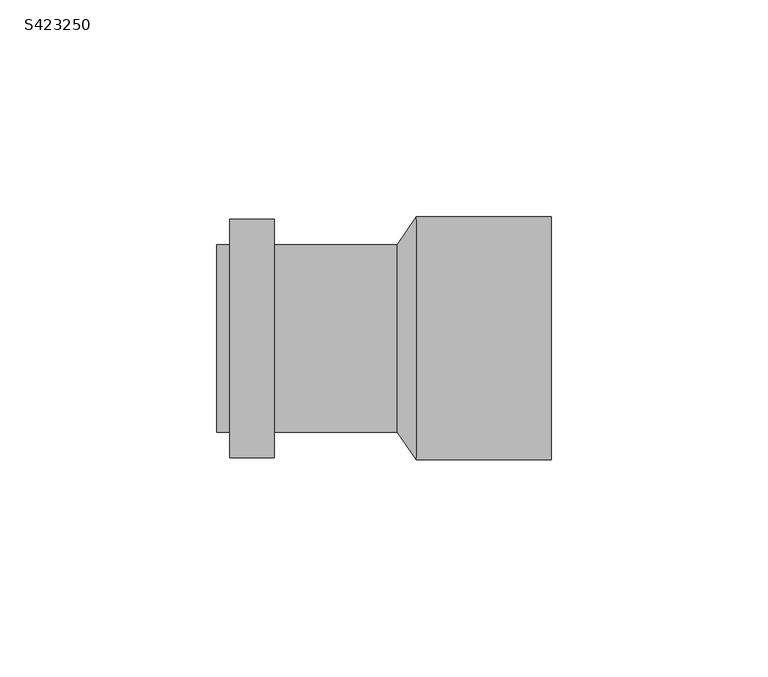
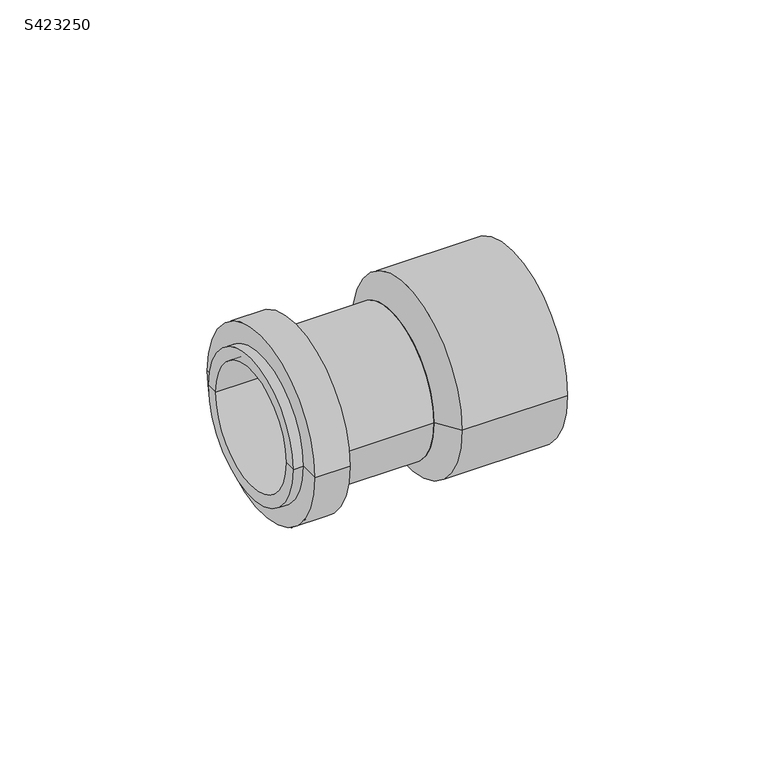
"""IFC4 building model written with IfcOpenShell, lengths in millimetres: pipe fitting geometry, PIF_HDPE PVCABS_ADAPTOR_MARLEY2 : S423250."""

from ifc_helpers import new_model, si_unit, frame, origin, place, context, project, spatial, polyline, circle_curve, source, transform, mapped, element, save
from ifc_brep_helpers import plane_surface, cylinder_surface, revolved_surface, advanced_brep


def s423250_e266388f(model_context):
    return source(origin(), model_context, "Body", "AdvancedBrep", [
        advanced_brep(
        [(3.0, -21.6, 0.0), (3.0, 21.6, 0.0), (7.4706438, 28.0, 0.0), (7.4706438, -28.0, 0.0), (3.0, 0.0, 0.0), (38.5, -28.0, 0.0), (38.5, 28.0, 0.0), (38.5, 0.0, 0.0)],
        [
            (0, 1, circle_curve(frame((3.0, 0.0, 0.0), z_axis=(1.0, 0.0, 0.0), x_axis=(0.0, 1.0, 0.0)), 21.6)),
            (1, 2),
            (2, 3, circle_curve(frame((7.4706438, 0.0, 0.0), z_axis=(-1.0, 0.0, 0.0), x_axis=(0.0, 1.0, 0.0)), 28.0)),
            (3, 0),
            (1, 0, circle_curve(frame((3.0, 0.0, 0.0), z_axis=(1.0, 0.0, 0.0), x_axis=(0.0, 1.0, 0.0)), 21.6)),
            (3, 2, circle_curve(frame((7.4706438, 0.0, 0.0), z_axis=(-1.0, 0.0, 0.0), x_axis=(0.0, 1.0, 0.0)), 28.0)),
            (4, 1),
            (0, 4),
            (5, 6, circle_curve(frame((38.5, 0.0, 0.0), z_axis=(1.0, 0.0, 0.0), x_axis=(0.0, 1.0, 0.0)), 28.0)),
            (6, 7),
            (7, 5),
            (6, 5, circle_curve(frame((38.5, 0.0, 0.0), z_axis=(1.0, 0.0, 0.0), x_axis=(0.0, 1.0, 0.0)), 28.0)),
            (2, 6),
            (5, 3),
        ],
        [
            revolved_surface(polyline([(7.4706438, 28.0, 0.0), (3.0, 21.6, 0.0)]), (47.6540294, 0.0, 0.0), (-1.0, 0.0, 0.0)),
            plane_surface(frame((3.0, 0.0, 0.0), z_axis=(-1.0, 0.0, 0.0), x_axis=(0.0, 1.0, 0.0))),
            plane_surface(frame((38.5, 0.0, 0.0), z_axis=(1.0, 0.0, 0.0), x_axis=(0.0, 1.0, 0.0))),
            cylinder_surface(frame((47.6540294, 0.0, 0.0), z_axis=(-1.0, 0.0, 0.0), x_axis=(0.0, 1.0, 0.0)), 28.0),
        ],
        [
            (0, [[1, 2, 3, 4]]),
            (0, [[5, -4, 6, -2]]),
            (1, [[7, -1, 8]]),
            (1, [[-8, -5, -7]]),
            (2, [[9, 10, 11]]),
            (2, [[12, -11, -10]]),
            (3, [[-3, 13, -9, 14]]),
            (3, [[-6, -14, -12, -13]]),
        ],
    ),
        advanced_brep(
        [(0.0, -18.0, 0.0), (0.0, 18.0, 0.0), (-38.5, 18.0, 0.0), (-38.5, -18.0, 0.0), (0.0, 0.0, 0.0), (3.0, -21.6, 0.0), (3.0, 21.6, 0.0), (3.0, 0.0, 0.0), (-25.2711836, -21.6, 0.0), (-25.2711836, 21.6, 0.0), (-25.2711836, -27.5, 0.0), (-25.2711836, 27.5, 0.0), (-35.5, -27.5, 0.0), (-35.5, 27.5, 0.0), (-35.5, -21.6, 0.0), (-35.5, 21.6, 0.0), (-38.5, -21.6, 0.0), (-38.5, 21.6, 0.0)],
        [
            (0, 1, circle_curve(frame((0.0, 0.0, 0.0), z_axis=(1.0, 0.0, 0.0), x_axis=(0.0, 1.0, 0.0)), 18.0)),
            (1, 2),
            (2, 3, circle_curve(frame((-38.5, 0.0, 0.0), z_axis=(-1.0, 0.0, 0.0), x_axis=(0.0, 1.0, 0.0)), 18.0)),
            (3, 0),
            (1, 0, circle_curve(frame((0.0, 0.0, 0.0), z_axis=(1.0, 0.0, 0.0), x_axis=(0.0, 1.0, 0.0)), 18.0)),
            (3, 2, circle_curve(frame((-38.5, 0.0, 0.0), z_axis=(-1.0, 0.0, 0.0), x_axis=(0.0, 1.0, 0.0)), 18.0)),
            (4, 1),
            (0, 4),
            (5, 6, circle_curve(frame((3.0, 0.0, 0.0), z_axis=(1.0, 0.0, 0.0), x_axis=(0.0, 1.0, 0.0)), 21.6)),
            (6, 7),
            (7, 5),
            (6, 5, circle_curve(frame((3.0, 0.0, 0.0), z_axis=(1.0, 0.0, 0.0), x_axis=(0.0, 1.0, 0.0)), 21.6)),
            (8, 9, circle_curve(frame((-25.2711836, 0.0, 0.0), z_axis=(1.0, 0.0, 0.0), x_axis=(0.0, 1.0, 0.0)), 21.6)),
            (9, 6),
            (5, 8),
            (9, 8, circle_curve(frame((-25.2711836, 0.0, 0.0), z_axis=(1.0, 0.0, 0.0), x_axis=(0.0, 1.0, 0.0)), 21.6)),
            (10, 11, circle_curve(frame((-25.2711836, 0.0, 0.0), z_axis=(1.0, 0.0, 0.0), x_axis=(0.0, 1.0, 0.0)), 27.5)),
            (11, 9),
            (8, 10),
            (11, 10, circle_curve(frame((-25.2711836, 0.0, 0.0), z_axis=(1.0, 0.0, 0.0), x_axis=(0.0, 1.0, 0.0)), 27.5)),
            (12, 13, circle_curve(frame((-35.5, 0.0, 0.0), z_axis=(1.0, 0.0, 0.0), x_axis=(0.0, 1.0, 0.0)), 27.5)),
            (13, 11),
            (10, 12),
            (13, 12, circle_curve(frame((-35.5, 0.0, 0.0), z_axis=(1.0, 0.0, 0.0), x_axis=(0.0, 1.0, 0.0)), 27.5)),
            (14, 15, circle_curve(frame((-35.5, 0.0, 0.0), z_axis=(1.0, 0.0, 0.0), x_axis=(0.0, 1.0, 0.0)), 21.6)),
            (15, 13),
            (12, 14),
            (15, 14, circle_curve(frame((-35.5, 0.0, 0.0), z_axis=(1.0, 0.0, 0.0), x_axis=(0.0, 1.0, 0.0)), 21.6)),
            (16, 17, circle_curve(frame((-38.5, 0.0, 0.0), z_axis=(1.0, 0.0, 0.0), x_axis=(0.0, 1.0, 0.0)), 21.6)),
            (17, 15),
            (14, 16),
            (17, 16, circle_curve(frame((-38.5, 0.0, 0.0), z_axis=(1.0, 0.0, 0.0), x_axis=(0.0, 1.0, 0.0)), 21.6)),
            (2, 17),
            (16, 3),
        ],
        [
            revolved_surface(polyline([(-38.5, 18.0, 0.0), (0.0, 18.0, 0.0)]), (-45.3991004, 0.0, 0.0), (-1.0, 0.0, 0.0)),
            plane_surface(frame((0.0, 0.0, 0.0), z_axis=(-1.0, 0.0, 0.0), x_axis=(0.0, 1.0, 0.0))),
            plane_surface(frame((3.0, 0.0, 0.0), z_axis=(1.0, 0.0, 0.0), x_axis=(0.0, 1.0, 0.0))),
            cylinder_surface(frame((-45.3991004, 0.0, 0.0), z_axis=(-1.0, 0.0, 0.0), x_axis=(0.0, 1.0, 0.0)), 21.6),
            plane_surface(frame((-25.2711836, 0.0, 0.0), z_axis=(1.0, 0.0, 0.0), x_axis=(0.0, 1.0, 0.0))),
            cylinder_surface(frame((-45.3991004, 0.0, 0.0), z_axis=(-1.0, 0.0, 0.0), x_axis=(0.0, 1.0, 0.0)), 27.5),
            plane_surface(frame((-35.5, 0.0, 0.0), z_axis=(-1.0, 0.0, 0.0), x_axis=(0.0, 1.0, 0.0))),
            plane_surface(frame((-38.5, 0.0, 0.0), z_axis=(-1.0, 0.0, 0.0), x_axis=(0.0, 1.0, 0.0))),
        ],
        [
            (0, [[1, 2, 3, 4]]),
            (0, [[5, -4, 6, -2]]),
            (1, [[7, -1, 8]]),
            (1, [[-8, -5, -7]]),
            (2, [[9, 10, 11]]),
            (2, [[12, -11, -10]]),
            (3, [[13, 14, -9, 15]]),
            (3, [[16, -15, -12, -14]]),
            (4, [[17, 18, -13, 19]]),
            (4, [[20, -19, -16, -18]]),
            (5, [[21, 22, -17, 23]]),
            (5, [[24, -23, -20, -22]]),
            (6, [[25, 26, -21, 27]]),
            (6, [[28, -27, -24, -26]]),
            (3, [[29, 30, -25, 31]]),
            (3, [[32, -31, -28, -30]]),
            (7, [[-3, 33, -29, 34]]),
            (7, [[-6, -34, -32, -33]]),
        ],
    ),
    ])


if __name__ == "__main__":
    model = new_model("IFC4")
    model_context = context("Model", 3, world=origin())
    ifc_project = project(units=[si_unit("LENGTHUNIT", "METRE", prefix="MILLI")], contexts=[model_context])
    site = spatial("IfcSite", under=ifc_project)
    building = spatial("IfcBuilding", under=site)
    placement = place(None, origin())
    s423250_shape = s423250_e266388f(model_context)
    element("IfcPipeFitting", 1, ObjectType="PIF_HDPE PVCABS_ADAPTOR_MARLEY2 : S423250", at=placement, inside=building, context=model_context, shape_type="MappedRepresentation", body=[
        mapped(s423250_shape, transform((0.0, 0.0, 0.0), x_axis=(1.0, 0.0, 0.0), y_axis=(0.0, 1.0, 0.0), z_axis=(0.0, 0.0, 1.0))),
    ])
    save(model, "model.ifc")
